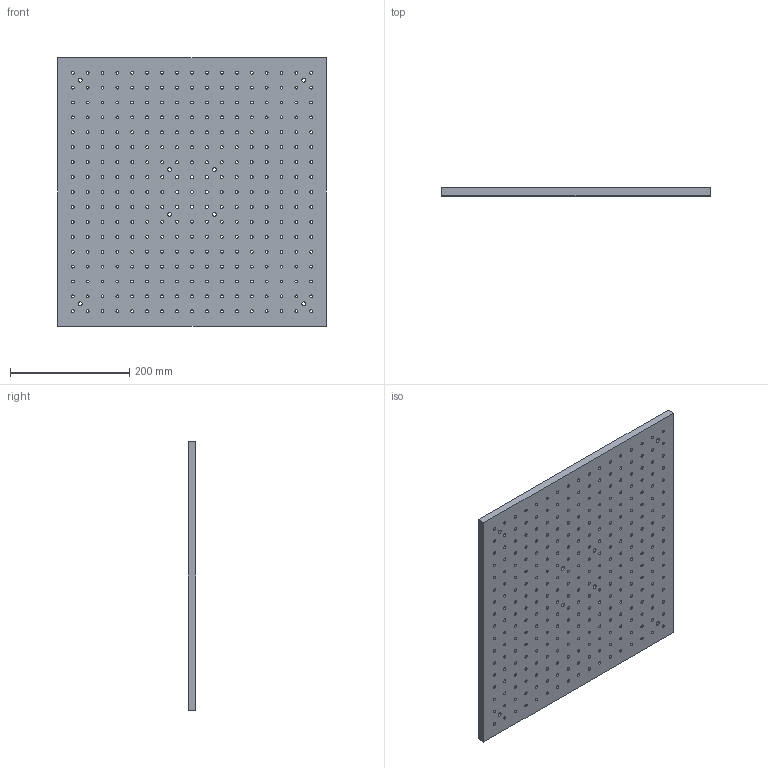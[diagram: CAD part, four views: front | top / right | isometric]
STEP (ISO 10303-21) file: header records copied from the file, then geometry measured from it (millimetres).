
FILE_DESCRIPTION (( 'STEP AP203' ), '1' );
FILE_NAME ('OTSB4545-13(AP203).STEP', '2022-02-28T09:11:38', ( '' ), ( '' ), 'SwSTEP 2.0', 'SolidWorks 2021', '' );
FILE_SCHEMA (( 'CONFIG_CONTROL_DESIGN' ));
Length unit declared in the file: millimetre
Products named in the file (1): OTSB4545-13(AP203)
Bounding box: 450 x 13.05 x 450 mm (x, y, z)
Volume: 2551577.9 mm3; surface area: 479075.9 mm2
Topology: 11 solids, 11 shells, 784 faces, 2262 edges, 1508 vertices
Faces by surface type: cylinder 610, plane 174
Entity records: 27651 total; most frequent: DIRECTION 5052, CARTESIAN_POINT 4555, ORIENTED_EDGE 4524, EDGE_CURVE 2262, AXIS2_PLACEMENT_3D 2005, VERTEX_POINT 1508, EDGE_LOOP 1386, CIRCLE 1220
